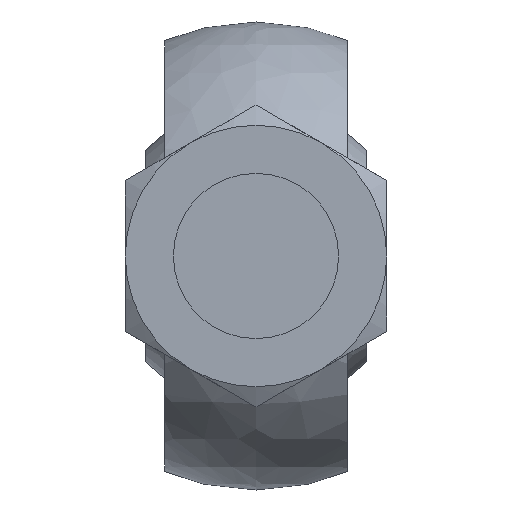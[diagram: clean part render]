
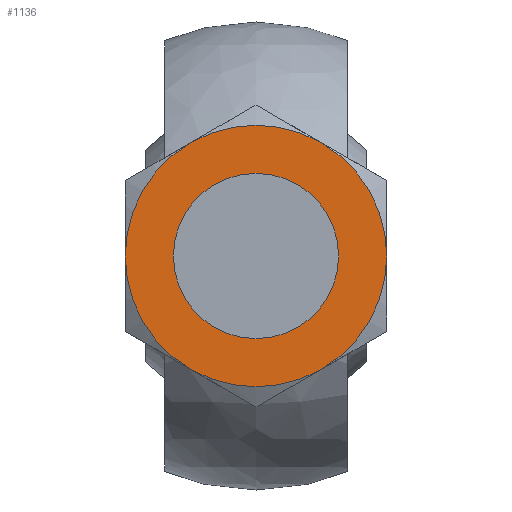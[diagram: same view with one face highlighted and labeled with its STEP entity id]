
A CAD part, left-side view. The second image highlights one B-rep face of the part: STEP entity #1136.
In plain terms, the highlighted planar face has unit normal (-1, 0, 0) as drawn and (0, 0, -1) by its records, which use the part's own axes.
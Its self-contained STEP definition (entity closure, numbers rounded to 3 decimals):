
#59 = AXIS2_PLACEMENT_3D ( 'NONE', #169, #163, #147 ) ;
#92 = DIRECTION ( 'NONE',  ( 0., 0., -1. ) ) ;
#122 = EDGE_CURVE ( 'NONE', #1253, #254, #1444, .T. ) ;
#139 = DIRECTION ( 'NONE',  ( 0., 0., -1. ) ) ;
#141 = DIRECTION ( 'NONE',  ( 1., 0., 0. ) ) ;
#147 = DIRECTION ( 'NONE',  ( 1., 0., 0. ) ) ;
#163 = DIRECTION ( 'NONE',  ( 0., 0., -1. ) ) ;
#169 = CARTESIAN_POINT ( 'NONE',  ( 0., 0., 0. ) ) ;
#179 = CIRCLE ( 'NONE', #59, 9.5 ) ;
#181 = ORIENTED_EDGE ( 'NONE', *, *, #1361, .T. ) ;
#211 = DIRECTION ( 'NONE',  ( -1., 0., 0. ) ) ;
#224 = DIRECTION ( 'NONE',  ( 0., 0., -1. ) ) ;
#235 = ORIENTED_EDGE ( 'NONE', *, *, #1168, .T. ) ;
#236 = CARTESIAN_POINT ( 'NONE',  ( 0., 0., 0. ) ) ;
#254 = VERTEX_POINT ( 'NONE', #1547 ) ;
#317 = CARTESIAN_POINT ( 'NONE',  ( -9.5, 0., 0. ) ) ;
#332 = CARTESIAN_POINT ( 'NONE',  ( 4.75, 8.227, 0. ) ) ;
#344 = EDGE_LOOP ( 'NONE', ( #1692, #1554, #1302, #181, #235, #997 ) ) ;
#368 = VERTEX_POINT ( 'NONE', #594 ) ;
#377 = CIRCLE ( 'NONE', #1580, 9.5 ) ;
#382 = AXIS2_PLACEMENT_3D ( 'NONE', #986, #139, #1149 ) ;
#422 = PLANE ( 'NONE',  #1498 ) ;
#433 = DIRECTION ( 'NONE',  ( 1., 0., 0. ) ) ;
#451 = EDGE_CURVE ( 'NONE', #1829, #1253, #1322, .T. ) ;
#462 = EDGE_CURVE ( 'NONE', #1601, #368, #582, .T. ) ;
#465 = DIRECTION ( 'NONE',  ( 0., 0., -1. ) ) ;
#527 = DIRECTION ( 'NONE',  ( 0., 0., -1. ) ) ;
#582 = CIRCLE ( 'NONE', #382, 6. ) ;
#594 = CARTESIAN_POINT ( 'NONE',  ( -6., 0., 0. ) ) ;
#612 = EDGE_LOOP ( 'NONE', ( #1330, #1030 ) ) ;
#642 = EDGE_CURVE ( 'NONE', #254, #1823, #377, .T. ) ;
#644 = CARTESIAN_POINT ( 'NONE',  ( 0., 0., 0. ) ) ;
#648 = FACE_BOUND ( 'NONE', #612, .T. ) ;
#654 = CARTESIAN_POINT ( 'NONE',  ( 0., 0., 0. ) ) ;
#656 = DIRECTION ( 'NONE',  ( 0., 0., -1. ) ) ;
#659 = DIRECTION ( 'NONE',  ( 1., 0., 0. ) ) ;
#693 = VERTEX_POINT ( 'NONE', #1054 ) ;
#790 = EDGE_CURVE ( 'NONE', #368, #1601, #1755, .T. ) ;
#794 = CIRCLE ( 'NONE', #1561, 9.5 ) ;
#806 = AXIS2_PLACEMENT_3D ( 'NONE', #654, #465, #433 ) ;
#855 = DIRECTION ( 'NONE',  ( 0., 0., -1. ) ) ;
#901 = EDGE_CURVE ( 'NONE', #1872, #1829, #1272, .T. ) ;
#986 = CARTESIAN_POINT ( 'NONE',  ( 0., 0., 0. ) ) ;
#988 = DIRECTION ( 'NONE',  ( 0., 0., -1. ) ) ;
#997 = ORIENTED_EDGE ( 'NONE', *, *, #901, .T. ) ;
#1030 = ORIENTED_EDGE ( 'NONE', *, *, #790, .F. ) ;
#1054 = CARTESIAN_POINT ( 'NONE',  ( -4.75, 8.227, 0. ) ) ;
#1108 = CARTESIAN_POINT ( 'NONE',  ( 0., 0., 0. ) ) ;
#1136 = ADVANCED_FACE ( 'NONE', ( #648, #1822 ), #422, .T. ) ;
#1149 = DIRECTION ( 'NONE',  ( 1., 0., 0. ) ) ;
#1168 = EDGE_CURVE ( 'NONE', #693, #1872, #179, .T. ) ;
#1235 = CARTESIAN_POINT ( 'NONE',  ( 6., 0., 0. ) ) ;
#1253 = VERTEX_POINT ( 'NONE', #1335 ) ;
#1272 = CIRCLE ( 'NONE', #1743, 9.5 ) ;
#1289 = DIRECTION ( 'NONE',  ( 1., 0., 0. ) ) ;
#1302 = ORIENTED_EDGE ( 'NONE', *, *, #642, .T. ) ;
#1322 = CIRCLE ( 'NONE', #1830, 9.5 ) ;
#1330 = ORIENTED_EDGE ( 'NONE', *, *, #462, .F. ) ;
#1335 = CARTESIAN_POINT ( 'NONE',  ( 4.75, -8.227, 0. ) ) ;
#1336 = AXIS2_PLACEMENT_3D ( 'NONE', #1934, #988, #141 ) ;
#1361 = EDGE_CURVE ( 'NONE', #1823, #693, #794, .T. ) ;
#1444 = CIRCLE ( 'NONE', #1336, 9.5 ) ;
#1498 = AXIS2_PLACEMENT_3D ( 'NONE', #1681, #224, #211 ) ;
#1547 = CARTESIAN_POINT ( 'NONE',  ( -4.75, -8.227, 0. ) ) ;
#1554 = ORIENTED_EDGE ( 'NONE', *, *, #122, .T. ) ;
#1561 = AXIS2_PLACEMENT_3D ( 'NONE', #1797, #855, #1919 ) ;
#1564 = DIRECTION ( 'NONE',  ( 1., 0., 0. ) ) ;
#1580 = AXIS2_PLACEMENT_3D ( 'NONE', #236, #527, #1564 ) ;
#1601 = VERTEX_POINT ( 'NONE', #1235 ) ;
#1654 = CARTESIAN_POINT ( 'NONE',  ( 9.5, 0., 0. ) ) ;
#1681 = CARTESIAN_POINT ( 'NONE',  ( 9.614, -9.614, 0. ) ) ;
#1692 = ORIENTED_EDGE ( 'NONE', *, *, #451, .T. ) ;
#1743 = AXIS2_PLACEMENT_3D ( 'NONE', #644, #656, #659 ) ;
#1755 = CIRCLE ( 'NONE', #806, 6. ) ;
#1797 = CARTESIAN_POINT ( 'NONE',  ( 0., 0., 0. ) ) ;
#1822 = FACE_OUTER_BOUND ( 'NONE', #344, .T. ) ;
#1823 = VERTEX_POINT ( 'NONE', #317 ) ;
#1829 = VERTEX_POINT ( 'NONE', #1654 ) ;
#1830 = AXIS2_PLACEMENT_3D ( 'NONE', #1108, #92, #1289 ) ;
#1872 = VERTEX_POINT ( 'NONE', #332 ) ;
#1919 = DIRECTION ( 'NONE',  ( 1., 0., 0. ) ) ;
#1934 = CARTESIAN_POINT ( 'NONE',  ( 0., 0., 0. ) ) ;
